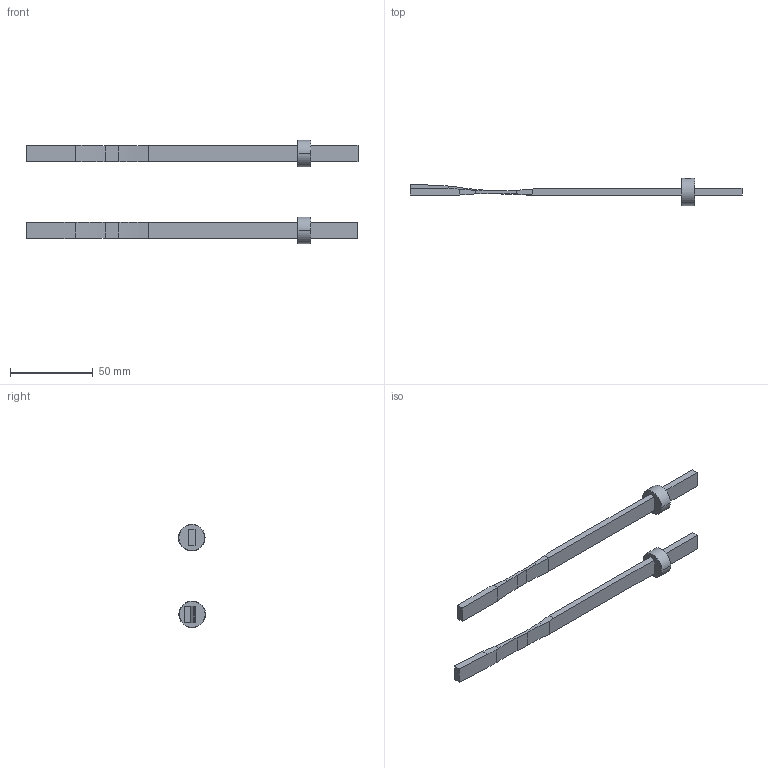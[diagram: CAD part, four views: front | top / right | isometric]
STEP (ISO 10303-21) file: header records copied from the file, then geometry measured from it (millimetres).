
FILE_DESCRIPTION (( 'STEP AP214' ), '1' );
FILE_NAME ('PF104200WB.STEP', '2013-07-26T14:32:47', ( '' ), ( '' ), 'SwSTEP 2.0', 'SolidWorks 2011', '' );
FILE_SCHEMA (( 'AUTOMOTIVE_DESIGN' ));
Length unit declared in the file: millimetre
Products named in the file (5): PF104200-WB-20130121-; 8PF1042WB-00-20130117; 9FP041016-20130117; PF104200WB; 8PF01042WB-00-RECTO-20130117
Assembly tree (5 placements, depth 3):
  PF104200WB
    PF104200-WB-20130121-
      8PF01042WB-00-RECTO-20130117
      9FP041016-20130117
    9FP041016-20130117
    8PF1042WB-00-20130117
Bounding box: 200.01 x 16.27 x 62.24 mm (x, y, z)
Volume: 16857.9 mm3; surface area: 12834 mm2
Topology: 4 solids, 4 shells, 74 faces, 192 edges, 122 vertices
Faces by surface type: plane 40, cylinder 22, cone 12
Entity records: 2464 total; most frequent: CARTESIAN_POINT 431, ORIENTED_EDGE 306, DIRECTION 305, EDGE_CURVE 153, AXIS2_PLACEMENT_3D 105, VERTEX_POINT 99, VECTOR 95, LINE 95
